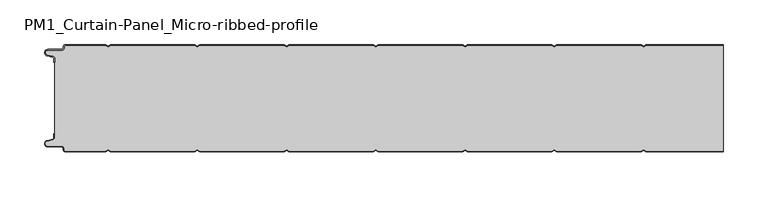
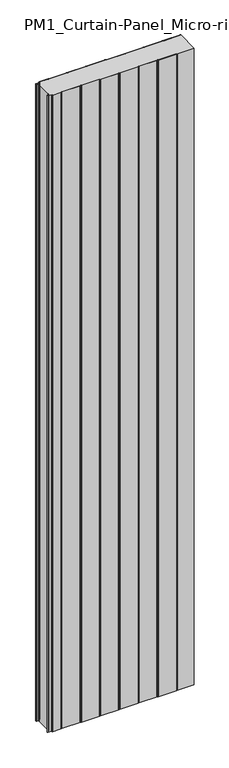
"""IFC4 building model written with IfcOpenShell, lengths in millimetres: plate geometry, PM1_Curtain-Panel_Micro-ribbed-profile : ACH_PM1_Stone-wool-Panel_120M."""

from ifc_helpers import new_model, si_unit, point, frame_2d, origin, origin_with_axes, place, context, project, spatial, polyline, circle_curve, trimmed, segment, composite_curve, outline, extrude, source, transform, mapped, element, save


def pm1_curtain_panel_micro_ribbed_profile_bbc1dd99(model_context):
    return source(origin(), model_context, "Body", "SweptSolid", [
        extrude(outline(composite_curve([segment(trimmed(circle_curve(frame_2d((-377.0, -15.878557)), 2.0), [point((-375.0, -15.878557))], [point((-376.5500978, -13.9298169))], True, "CARTESIAN"), True, "CONTINUOUS"), segment(polyline([(-376.5500978, -13.9298169), (-382.7098239, -12.507732)]), True, "CONTINUOUS"), segment(trimmed(circle_curve(frame_2d((-381.9, -9.0)), 3.6), [point((-382.7098239, -12.507732))], [point((-381.9, -5.4))], False, "CARTESIAN"), True, "CONTINUOUS"), segment(polyline([(-381.9, -5.4), (-366.4, -5.4)]), True, "CONTINUOUS"), segment(trimmed(circle_curve(frame_2d((-366.4, -3.4)), 2.0), [point((-366.4, -5.4))], [point((-364.4, -3.4))], True, "CARTESIAN"), True, "CONTINUOUS"), segment(polyline([(-364.4, -3.4), (-364.4, -2.0)]), True, "CONTINUOUS"), segment(trimmed(circle_curve(frame_2d((-362.4, -2.0)), 2.0), [point((-364.4, -2.0))], [point((-362.4, 0.0))], False, "CARTESIAN"), True, "CONTINUOUS"), segment(polyline([(-362.4, 0.0), (-317.0999995, 0.0), (-314.4, -1.5588455), (-311.7000005, 0.0), (-217.0999995, 0.0), (-214.4, -1.5588455), (-211.7000005, 0.0), (-117.0999995, 0.0), (-114.4, -1.5588455), (-111.7000005, 0.0), (-17.0999995, 0.0), (-14.4, -1.5588455), (-11.7000005, 0.0), (82.9000005, 0.0), (85.6, -1.5588455), (88.2999995, 0.0), (182.9000005, 0.0), (185.6, -1.5588455), (188.2999995, 0.0), (282.9000005, 0.0), (285.6, -1.5588455), (288.2999995, 0.0), (375.0, 0.0), (375.0, -0.8), (288.5143588, -0.8), (285.6, -2.482606), (282.6856412, -0.8), (188.5143588, -0.8), (185.6, -2.482606), (182.6856412, -0.8), (88.5143588, -0.8), (85.6, -2.482606), (82.6856412, -0.8), (-11.4856412, -0.8), (-14.4, -2.482606), (-17.3143588, -0.8), (-111.4856412, -0.8), (-114.4, -2.482606), (-117.3143588, -0.8), (-211.4856412, -0.8), (-214.4, -2.482606), (-217.3143588, -0.8), (-311.4856412, -0.8), (-314.4, -2.482606), (-317.3143588, -0.8), (-362.4, -0.8)]), True, "CONTINUOUS"), segment(trimmed(circle_curve(frame_2d((-362.4, -2.0)), 1.2), [point((-362.4, -0.8))], [point((-363.6, -2.0))], True, "CARTESIAN"), True, "CONTINUOUS"), segment(polyline([(-363.6, -2.0), (-363.6, -3.4)]), True, "CONTINUOUS"), segment(trimmed(circle_curve(frame_2d((-366.4, -3.4)), 2.8), [point((-363.6, -3.4))], [point((-366.4, -6.2))], False, "CARTESIAN"), True, "CONTINUOUS"), segment(polyline([(-366.4, -6.2), (-381.9, -6.2)]), True, "CONTINUOUS"), segment(trimmed(circle_curve(frame_2d((-381.9, -9.0)), 2.8), [point((-381.9, -6.2))], [point((-382.529863, -11.7282362))], True, "CARTESIAN"), True, "CONTINUOUS"), segment(polyline([(-382.529863, -11.7282362), (-376.370137, -13.150321)]), True, "CONTINUOUS"), segment(trimmed(circle_curve(frame_2d((-377.0, -15.878557)), 2.8), [point((-376.370137, -13.150321))], [point((-374.2, -15.878557))], False, "CARTESIAN"), True, "CONTINUOUS"), segment(polyline([(-374.2, -15.878557), (-374.2, -20.0), (-375.0, -20.0), (-375.0, -15.878557)]), True, "CONTINUOUS")], self_intersect=False)), origin_with_axes(), (0.0, 0.0, 1.0), 3500.0),
        extrude(outline(composite_curve([segment(polyline([(-374.2, -104.1214426), (-374.2, -15.8785573)]), True, "CONTINUOUS"), segment(trimmed(circle_curve(frame_2d((-377.0, -15.8785573)), 2.8), [point((-374.2, -15.8785573))], [point((-376.370137, -13.1503212))], True, "CARTESIAN"), True, "CONTINUOUS"), segment(polyline([(-376.370137, -13.1503212), (-382.5298631, -11.7282362)]), True, "CONTINUOUS"), segment(trimmed(circle_curve(frame_2d((-381.9, -9.0)), 2.8), [point((-382.5298631, -11.7282362))], [point((-381.9, -6.2))], False, "CARTESIAN"), True, "CONTINUOUS"), segment(polyline([(-381.9, -6.2), (-366.4000001, -6.2)]), True, "CONTINUOUS"), segment(trimmed(circle_curve(frame_2d((-366.4000001, -3.4)), 2.8), [point((-366.4000001, -6.2))], [point((-363.6000001, -3.4))], True, "CARTESIAN"), True, "CONTINUOUS"), segment(polyline([(-363.6000001, -3.4), (-363.6000001, -2.0)]), True, "CONTINUOUS"), segment(trimmed(circle_curve(frame_2d((-362.4000001, -2.0)), 1.2), [point((-363.6000001, -2.0))], [point((-362.4000001, -0.8))], False, "CARTESIAN"), True, "CONTINUOUS"), segment(polyline([(-362.4000001, -0.8), (-317.3143589, -0.8), (-314.4000001, -2.482606), (-311.4856412, -0.8), (-217.3143589, -0.8), (-214.4000001, -2.482606), (-211.4856412, -0.8), (-117.3143589, -0.8), (-114.4000001, -2.482606), (-111.4856412, -0.8), (-17.3143589, -0.8), (-14.4000001, -2.482606), (-11.4856412, -0.8), (82.6856411, -0.8), (85.5999999, -2.482606), (88.5143588, -0.8), (182.6856411, -0.8), (185.5999999, -2.482606), (188.5143588, -0.8), (282.6856411, -0.8), (285.5999999, -2.482606), (288.5143588, -0.8), (375.0, -0.8), (375.0, -119.2), (288.5143588, -119.2), (285.5999999, -117.517394), (282.6856411, -119.2), (188.5143588, -119.2), (185.5999999, -117.517394), (182.6856411, -119.2), (88.5143588, -119.2), (85.5999999, -117.517394), (82.6856411, -119.2), (-11.4856412, -119.2), (-14.4000001, -117.517394), (-17.3143589, -119.2), (-111.4856412, -119.2), (-114.4000001, -117.517394), (-117.3143589, -119.2), (-211.4856412, -119.2), (-214.4000001, -117.517394), (-217.3143589, -119.2), (-311.4856412, -119.2), (-314.4000001, -117.517394), (-317.3143589, -119.2), (-362.4000001, -119.2)]), True, "CONTINUOUS"), segment(trimmed(circle_curve(frame_2d((-362.4000001, -118.0)), 1.2), [point((-362.4000001, -119.2))], [point((-363.6000001, -118.0))], False, "CARTESIAN"), True, "CONTINUOUS"), segment(polyline([(-363.6000001, -118.0), (-363.6000001, -116.6)]), True, "CONTINUOUS"), segment(trimmed(circle_curve(frame_2d((-366.4000001, -116.6)), 2.8), [point((-363.6000001, -116.6))], [point((-366.4000001, -113.8))], True, "CARTESIAN"), True, "CONTINUOUS"), segment(polyline([(-366.4000001, -113.8), (-381.9, -113.8)]), True, "CONTINUOUS"), segment(trimmed(circle_curve(frame_2d((-381.9, -111.0)), 2.8), [point((-381.9, -113.8))], [point((-382.5298631, -108.2717638))], False, "CARTESIAN"), True, "CONTINUOUS"), segment(polyline([(-382.5298631, -108.2717638), (-376.370137, -106.8496788)]), True, "CONTINUOUS"), segment(trimmed(circle_curve(frame_2d((-377.0, -104.1214426)), 2.8), [point((-376.370137, -106.8496788))], [point((-374.2, -104.1214426))], True, "CARTESIAN"), True, "CONTINUOUS")], self_intersect=False)), origin_with_axes(), (0.0, 0.0, 1.0), 3500.0),
        extrude(outline(composite_curve([segment(polyline([(-375.0, -104.121443), (-375.0, -100.0), (-374.2, -100.0), (-374.2, -104.121443)]), True, "CONTINUOUS"), segment(trimmed(circle_curve(frame_2d((-377.0, -104.121443)), 2.8), [point((-374.2, -104.121443))], [point((-376.370137, -106.8496792))], False, "CARTESIAN"), True, "CONTINUOUS"), segment(polyline([(-376.370137, -106.8496792), (-382.529863, -108.271764)]), True, "CONTINUOUS"), segment(trimmed(circle_curve(frame_2d((-381.9, -111.0)), 2.8), [point((-382.529863, -108.271764))], [point((-381.9, -113.8))], True, "CARTESIAN"), True, "CONTINUOUS"), segment(polyline([(-381.9, -113.8), (-366.4, -113.8)]), True, "CONTINUOUS"), segment(trimmed(circle_curve(frame_2d((-366.4, -116.6)), 2.8), [point((-366.4, -113.8))], [point((-363.6, -116.6))], False, "CARTESIAN"), True, "CONTINUOUS"), segment(polyline([(-363.6, -116.6), (-363.6, -118.0)]), True, "CONTINUOUS"), segment(trimmed(circle_curve(frame_2d((-362.4, -118.0)), 1.2), [point((-363.6, -118.0))], [point((-362.4, -119.2))], True, "CARTESIAN"), True, "CONTINUOUS"), segment(polyline([(-362.4, -119.2), (-317.3143588, -119.2), (-314.4, -117.517394), (-311.4856412, -119.2), (-217.3143588, -119.2), (-214.4, -117.517394), (-211.4856412, -119.2), (-117.3143588, -119.2), (-114.4, -117.517394), (-111.4856412, -119.2), (-17.3143588, -119.2), (-14.4, -117.517394), (-11.4856412, -119.2), (82.6856412, -119.2), (85.6, -117.517394), (88.5143588, -119.2), (182.6856412, -119.2), (185.6, -117.517394), (188.5143588, -119.2), (282.6856412, -119.2), (285.6, -117.517394), (288.5143588, -119.2), (375.0, -119.2), (375.0, -120.0), (288.2999995, -120.0), (285.6, -118.4411545), (282.9000005, -120.0), (188.2999995, -120.0), (185.6, -118.4411545), (182.9000005, -120.0), (88.2999995, -120.0), (85.6, -118.4411545), (82.9000005, -120.0), (-11.7000005, -120.0), (-14.4, -118.4411545), (-17.0999995, -120.0), (-111.7000005, -120.0), (-114.4, -118.4411545), (-117.0999995, -120.0), (-211.7000005, -120.0), (-214.4, -118.4411545), (-217.0999995, -120.0), (-311.7000005, -120.0), (-314.4, -118.4411545), (-317.0999995, -120.0), (-362.4, -120.0)]), True, "CONTINUOUS"), segment(trimmed(circle_curve(frame_2d((-362.4, -118.0)), 2.0), [point((-362.4, -120.0))], [point((-364.4, -118.0))], False, "CARTESIAN"), True, "CONTINUOUS"), segment(polyline([(-364.4, -118.0), (-364.4, -116.6)]), True, "CONTINUOUS"), segment(trimmed(circle_curve(frame_2d((-366.4, -116.6)), 2.0), [point((-364.4, -116.6))], [point((-366.4, -114.6))], True, "CARTESIAN"), True, "CONTINUOUS"), segment(polyline([(-366.4, -114.6), (-381.9, -114.6)]), True, "CONTINUOUS"), segment(trimmed(circle_curve(frame_2d((-381.9, -111.0)), 3.6), [point((-381.9, -114.6))], [point((-382.7098239, -107.4922678))], False, "CARTESIAN"), True, "CONTINUOUS"), segment(polyline([(-382.7098239, -107.4922678), (-376.5500979, -106.070183)]), True, "CONTINUOUS"), segment(trimmed(circle_curve(frame_2d((-377.0, -104.121443)), 2.0), [point((-376.5500979, -106.070183))], [point((-375.0, -104.121443))], True, "CARTESIAN"), True, "CONTINUOUS")], self_intersect=False)), origin_with_axes(), (0.0, 0.0, 1.0), 3500.0),
    ])


if __name__ == "__main__":
    model = new_model("IFC4")
    model_context = context("Model", 3, world=origin())
    ifc_project = project(units=[si_unit("LENGTHUNIT", "METRE", prefix="MILLI")], contexts=[model_context])
    site = spatial("IfcSite", under=ifc_project)
    building = spatial("IfcBuilding", under=site)
    placement = place(None, origin())
    pm1_curtain_panel_micro_ribbed_profile_shape = pm1_curtain_panel_micro_ribbed_profile_bbc1dd99(model_context)
    element("IfcPlate", 1, ObjectType="PM1_Curtain-Panel_Micro-ribbed-profile : ACH_PM1_Stone-wool-Panel_120M", at=placement, inside=building, context=model_context, shape_type="MappedRepresentation", body=[
        mapped(pm1_curtain_panel_micro_ribbed_profile_shape, transform((0.0, 0.0, 0.0), x_axis=(1.0, 0.0, 0.0), y_axis=(0.0, 1.0, 0.0), z_axis=(0.0, 0.0, 1.0))),
    ])
    save(model, "model.ifc")
